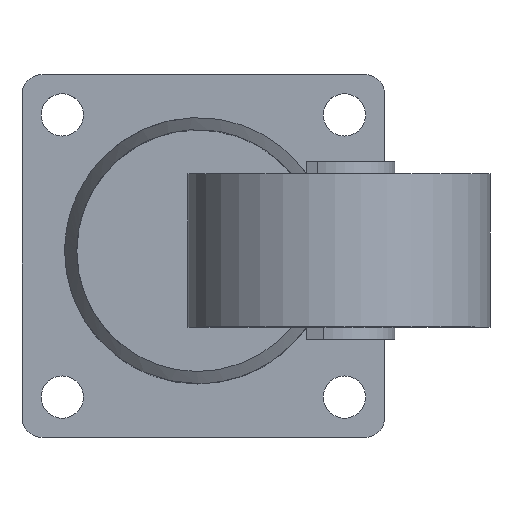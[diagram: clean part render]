
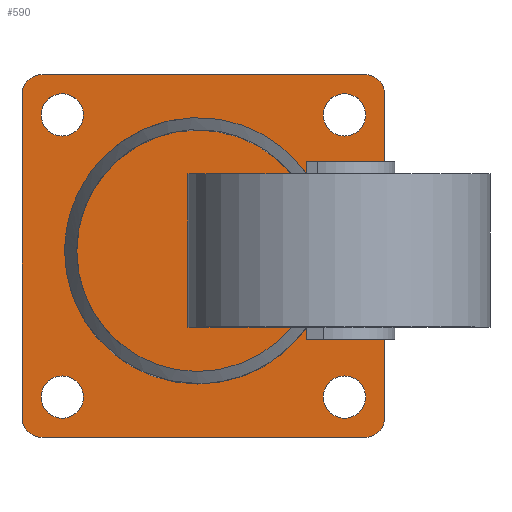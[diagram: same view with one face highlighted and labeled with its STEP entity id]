
A CAD part, top view. The second image highlights one B-rep face of the part: STEP entity #590.
In plain terms, the highlighted planar face has unit normal (0, 0, 1).
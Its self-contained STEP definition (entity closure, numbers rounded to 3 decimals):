
#88=CARTESIAN_POINT('',(-6.618,-75.026,3.));
#89=VERTEX_POINT('',#88);
#90=CARTESIAN_POINT('',(-11.618,-70.026,3.));
#91=VERTEX_POINT('',#90);
#92=CARTESIAN_POINT('',(-6.618,-70.026,3.));
#93=DIRECTION('',(0.0,0.0,-1.));
#94=DIRECTION('',(-0.707,-0.707,0.0));
#95=AXIS2_PLACEMENT_3D('',#92,#93,#94);
#96=CIRCLE('',#95,5.);
#97=EDGE_CURVE('',#89,#91,#96,.T.);
#139=CARTESIAN_POINT('',(73.382,-75.026,3.));
#140=VERTEX_POINT('',#139);
#147=CARTESIAN_POINT('',(73.382,-75.026,3.));
#148=DIRECTION('',(-1.0,0.0,0.0));
#149=VECTOR('',#148,80.0);
#150=LINE('',#147,#149);
#151=EDGE_CURVE('',#140,#89,#150,.T.);
#264=CARTESIAN_POINT('',(78.382,-70.026,3.));
#265=VERTEX_POINT('',#264);
#266=CARTESIAN_POINT('',(73.382,-70.026,3.));
#267=DIRECTION('',(0.0,0.0,-1.));
#268=DIRECTION('',(0.707,-0.707,0.0));
#269=AXIS2_PLACEMENT_3D('',#266,#267,#268);
#270=CIRCLE('',#269,5.);
#271=EDGE_CURVE('',#265,#140,#270,.T.);
#291=CARTESIAN_POINT('',(78.382,9.974,3.));
#292=VERTEX_POINT('',#291);
#299=CARTESIAN_POINT('',(78.382,9.974,3.));
#300=DIRECTION('',(0.0,-1.0,0.0));
#301=VECTOR('',#300,80.0);
#302=LINE('',#299,#301);
#303=EDGE_CURVE('',#292,#265,#302,.T.);
#313=CARTESIAN_POINT('',(73.382,14.974,3.));
#314=VERTEX_POINT('',#313);
#315=CARTESIAN_POINT('',(73.382,9.974,3.));
#316=DIRECTION('',(0.0,0.0,-1.));
#317=DIRECTION('',(0.707,0.707,0.0));
#318=AXIS2_PLACEMENT_3D('',#315,#316,#317);
#319=CIRCLE('',#318,5.);
#320=EDGE_CURVE('',#314,#292,#319,.T.);
#340=CARTESIAN_POINT('',(-6.618,14.974,3.));
#341=VERTEX_POINT('',#340);
#348=CARTESIAN_POINT('',(-6.618,14.974,3.));
#349=DIRECTION('',(1.0,0.0,0.0));
#350=VECTOR('',#349,80.0);
#351=LINE('',#348,#350);
#352=EDGE_CURVE('',#341,#314,#351,.T.);
#362=CARTESIAN_POINT('',(-11.618,9.974,3.));
#363=VERTEX_POINT('',#362);
#364=CARTESIAN_POINT('',(-6.618,9.974,3.));
#365=DIRECTION('',(0.0,0.0,-1.));
#366=DIRECTION('',(-0.707,0.707,0.0));
#367=AXIS2_PLACEMENT_3D('',#364,#365,#366);
#368=CIRCLE('',#367,5.);
#369=EDGE_CURVE('',#363,#341,#368,.T.);
#411=CARTESIAN_POINT('',(73.632,-65.026,3.));
#412=VERTEX_POINT('',#411);
#413=CARTESIAN_POINT('',(68.382,-65.026,3.));
#414=DIRECTION('',(0.0,0.0,-1.0));
#415=DIRECTION('',(1.0,0.0,0.0));
#416=AXIS2_PLACEMENT_3D('',#413,#414,#415);
#417=CIRCLE('',#416,5.25);
#418=EDGE_CURVE('',#412,#412,#417,.T.);
#452=CARTESIAN_POINT('',(3.632,4.974,3.));
#453=VERTEX_POINT('',#452);
#454=CARTESIAN_POINT('',(-1.618,4.974,3.));
#455=DIRECTION('',(0.0,0.0,-1.0));
#456=DIRECTION('',(1.0,0.0,0.0));
#457=AXIS2_PLACEMENT_3D('',#454,#455,#456);
#458=CIRCLE('',#457,5.25);
#459=EDGE_CURVE('',#453,#453,#458,.T.);
#493=CARTESIAN_POINT('',(73.632,4.974,3.));
#494=VERTEX_POINT('',#493);
#495=CARTESIAN_POINT('',(68.382,4.974,3.));
#496=DIRECTION('',(0.0,0.0,-1.0));
#497=DIRECTION('',(1.0,0.0,0.0));
#498=AXIS2_PLACEMENT_3D('',#495,#496,#497);
#499=CIRCLE('',#498,5.25);
#500=EDGE_CURVE('',#494,#494,#499,.T.);
#534=CARTESIAN_POINT('',(3.632,-65.026,3.));
#535=VERTEX_POINT('',#534);
#536=CARTESIAN_POINT('',(-1.618,-65.026,3.));
#537=DIRECTION('',(0.0,0.0,-1.0));
#538=DIRECTION('',(1.0,0.0,0.0));
#539=AXIS2_PLACEMENT_3D('',#536,#537,#538);
#540=CIRCLE('',#539,5.25);
#541=EDGE_CURVE('',#535,#535,#540,.T.);
#552=CARTESIAN_POINT('',(-11.618,-70.026,3.));
#553=DIRECTION('',(0.0,1.0,0.0));
#554=VECTOR('',#553,80.0);
#555=LINE('',#552,#554);
#556=EDGE_CURVE('',#91,#363,#555,.T.);
#563=CARTESIAN_POINT('',(33.382,-30.026,3.));
#564=DIRECTION('',(0.0,0.0,1.0));
#565=DIRECTION('',(1.0,0.0,0.0));
#566=AXIS2_PLACEMENT_3D('',#563,#564,#565);
#567=PLANE('',#566);
#568=ORIENTED_EDGE('',*,*,#97,.F.);
#569=ORIENTED_EDGE('',*,*,#151,.F.);
#570=ORIENTED_EDGE('',*,*,#271,.F.);
#571=ORIENTED_EDGE('',*,*,#303,.F.);
#572=ORIENTED_EDGE('',*,*,#320,.F.);
#573=ORIENTED_EDGE('',*,*,#352,.F.);
#574=ORIENTED_EDGE('',*,*,#369,.F.);
#575=ORIENTED_EDGE('',*,*,#556,.F.);
#576=EDGE_LOOP('',(#568,#569,#570,#571,#572,#573,#574,#575));
#577=FACE_OUTER_BOUND('',#576,.T.);
#578=ORIENTED_EDGE('',*,*,#418,.T.);
#579=EDGE_LOOP('',(#578));
#580=FACE_BOUND('',#579,.T.);
#581=ORIENTED_EDGE('',*,*,#459,.T.);
#582=EDGE_LOOP('',(#581));
#583=FACE_BOUND('',#582,.T.);
#584=ORIENTED_EDGE('',*,*,#500,.T.);
#585=EDGE_LOOP('',(#584));
#586=FACE_BOUND('',#585,.T.);
#587=ORIENTED_EDGE('',*,*,#541,.T.);
#588=EDGE_LOOP('',(#587));
#589=FACE_BOUND('',#588,.T.);
#590=ADVANCED_FACE('',(#577,#580,#583,#586,#589),#567,.T.);
